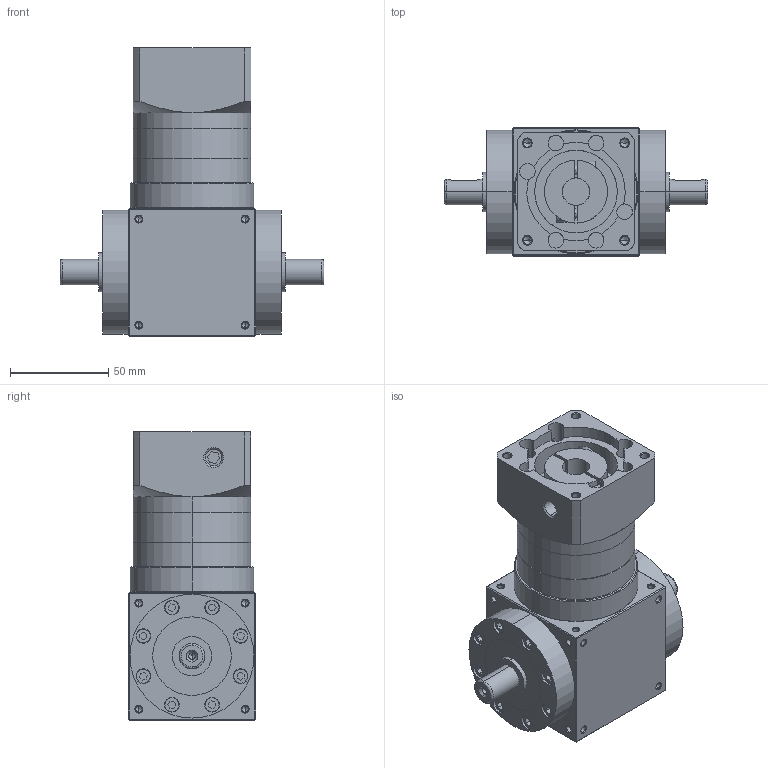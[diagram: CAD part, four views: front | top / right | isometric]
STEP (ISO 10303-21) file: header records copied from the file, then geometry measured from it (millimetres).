
FILE_DESCRIPTION (( 'STEP AP203' ), '1' );
FILE_NAME ('AT065-FL-L2-14-50-70M5.STEP', '2026-04-20T06:02:13', ( 'Windows User' ), ( 'P R C' ), 'SwSTEP 2.0', 'SolidWorks 2016', '' );
FILE_SCHEMA (( 'CONFIG_CONTROL_DESIGN' ));
Length unit declared in the file: millimetre
Products named in the file (5): AT065输入法兰-B-(14-30-50-M5-70); AT065-FL-L2-14-50-70M5; AT65FL-转角箱体-批量-双轴输出; AT65-怀堤楊擘-蠶講; AT065-单级齿圈
Assembly tree (4 placements, depth 2):
  AT065-FL-L2-14-50-70M5
    AT65FL-转角箱体-批量-双轴输出
    AT65-怀堤楊擘-蠶講
    AT065-单级齿圈
    AT065输入法兰-B-(14-30-50-M5-70)
Bounding box: 134 x 65 x 146.5 mm (x, y, z)
Volume: 430023.9 mm3; surface area: 115461.5 mm2
Topology: 6 solids, 18 shells, 1642 faces, 4182 edges, 2627 vertices
Faces by surface type: plane 785, cylinder 414, cone 291, bspline 152
Entity records: 55635 total; most frequent: CARTESIAN_POINT 16758, ORIENTED_EDGE 8140, DIRECTION 7532, EDGE_CURVE 4070, VERTEX_POINT 2627, AXIS2_PLACEMENT_3D 2516, VECTOR 2500, LINE 2500
